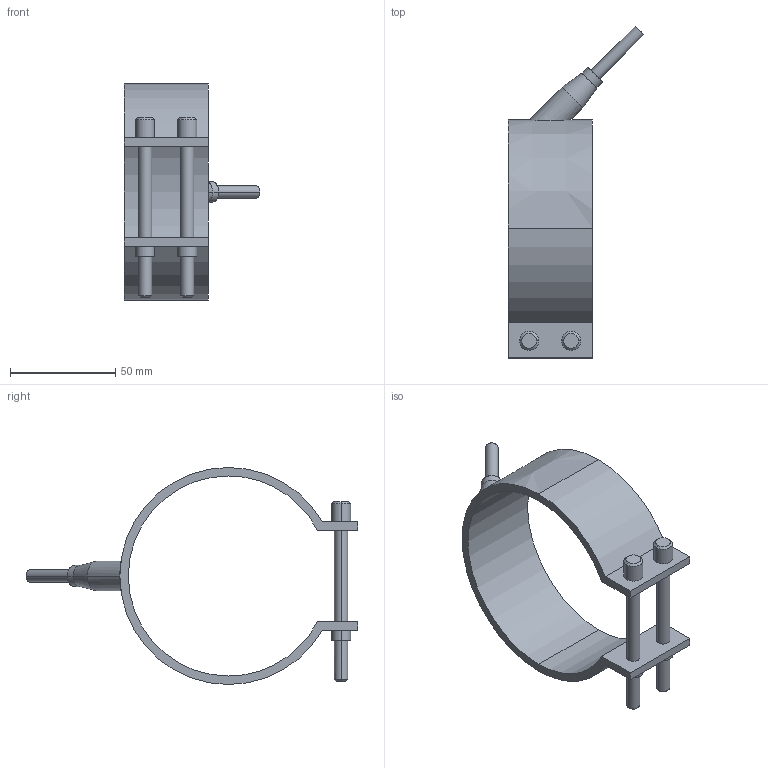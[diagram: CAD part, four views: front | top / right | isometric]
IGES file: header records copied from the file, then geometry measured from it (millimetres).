
Start section: START RECORD GO HERE.
Global section: file name: 29095040.igs; native system: DASSAULT SYSTEMES CATIA V5 R20 - www.3ds.com; preprocessor: CATIA Version 5 Release 20 ; author: Utente; organization: NB04-ASUS; date: 20210329.195313; units: millimetre
Bounding box: 64.55 x 157.55 x 103 mm (x, y, z)
Surface area: 31308 mm2 (no closed solid volume)
Topology: 0 solids, 0 shells, 54 faces, 246 edges, 246 vertices
Faces by surface type: revolution 38, plane 16
